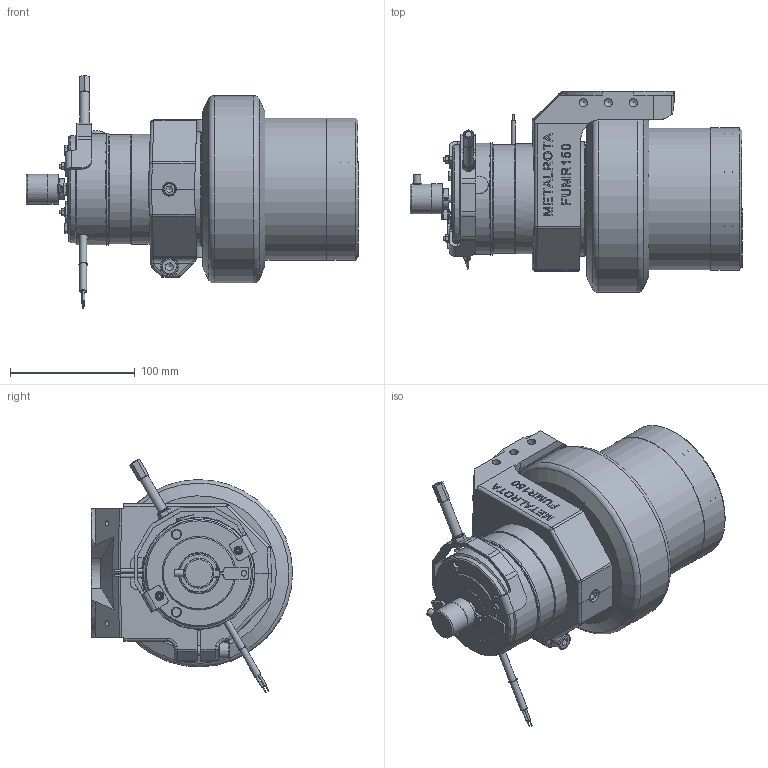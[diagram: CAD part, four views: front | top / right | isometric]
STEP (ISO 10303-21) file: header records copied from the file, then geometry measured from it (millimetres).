
FILE_DESCRIPTION(/* description */ (''),/* implementation_level */ '2;1');
FILE_NAME(/* name */ 'Z:\SITO WEB 2023\Motoruote\Orizzontali NON sterzanti\MR150FM\MR150FM DC\MR150FM-DC.stp',/* time_stamp */ '2023-05-29T17:07:39+02:00',/* author */ ('cad3'),/* organization */ (''),/* preprocessor_version */ 'ST-DEVELOPER v18.1',/* originating_system */ 'Autodesk Inventor 2022',/* authorisation */ '');
FILE_SCHEMA (('AUTOMOTIVE_DESIGN { 1 0 10303 214 3 1 1 }'));
Length unit declared in the file: millimetre
Products named in the file (1): MR150FM-DC
Bounding box: 265.83 x 160.98 x 186.85 mm (x, y, z)
Volume: 1644691.6 mm3; surface area: 368814.6 mm2
Topology: 10 solids, 40 shells, 2257 faces, 5540 edges, 3479 vertices
Faces by surface type: plane 975, cylinder 679, cone 343, bspline 177, torus 75, sphere 8
Full cylindrical faces by diameter (mm): 0.75 x2, 1.5 x2, 2 x4, 2.5 x1, 3 x10, 3.2 x6, 3.242 x12, 3.3 x12, 3.5 x2, 4 x17, 4.134 x2, 4.2 x8, 4.3 x11, 4.5 x15, 5 x5, 5.2 x10, 5.4 x1, 5.5 x5, 5.88 x3, 5.917 x3, 6 x8, 6.5 x1, 6.647 x11, 6.95 x1, 7 x9, 7.2 x2, 7.5 x12, 7.64 x6, 7.8 x1, 8 x10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
Entity records: 76946 total; most frequent: CARTESIAN_POINT 22726, ORIENTED_EDGE 10860, DIRECTION 10647, EDGE_CURVE 5468, AXIS2_PLACEMENT_3D 4086, VERTEX_POINT 3479, EDGE_LOOP 2548, LINE 2475
